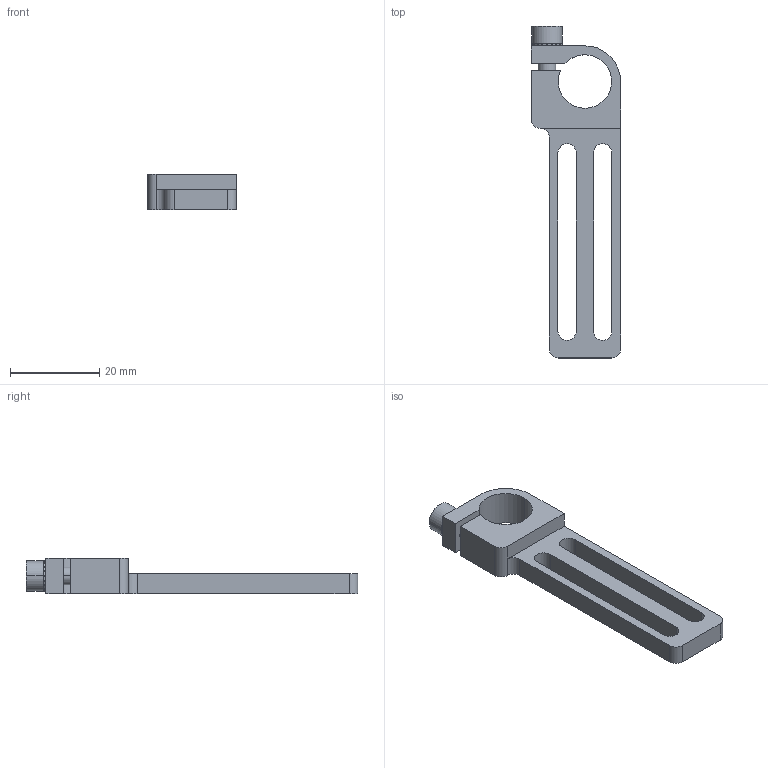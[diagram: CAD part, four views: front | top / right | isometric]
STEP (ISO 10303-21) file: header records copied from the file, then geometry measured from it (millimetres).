
FILE_DESCRIPTION (( 'STEP AP214' ), '1' );
FILE_NAME ('SMBE1-1240.STEP', '2024-08-13T06:07:14', ( '' ), ( '' ), 'SwSTEP 2.0', 'SolidWorks 2022', '' );
FILE_SCHEMA (( 'AUTOMOTIVE_DESIGN' ));
Length unit declared in the file: millimetre
Products named in the file (5): SMBE1-1240-T.STEP; PTC-M4L12.STEP; PTS-M4.STEP; SMBE1-1240; SMBE1-1240.STEP
Assembly tree (4 placements, depth 3):
  SMBE1-1240
    SMBE1-1240-T.STEP
      SMBE1-1240.STEP
      PTC-M4L12.STEP
      PTS-M4.STEP
Bounding box: 20 x 74.45 x 8 mm (x, y, z)
Volume: 4087.6 mm3; surface area: 4213.1 mm2
Topology: 3 solids, 3 shells, 217 faces, 623 edges, 413 vertices
Faces by surface type: plane 187, cylinder 24, cone 6
Entity records: 7351 total; most frequent: DIRECTION 1287, CARTESIAN_POINT 1261, ORIENTED_EDGE 1246, EDGE_CURVE 623, AXIS2_PLACEMENT_3D 439, VERTEX_POINT 413, VECTOR 409, LINE 409
